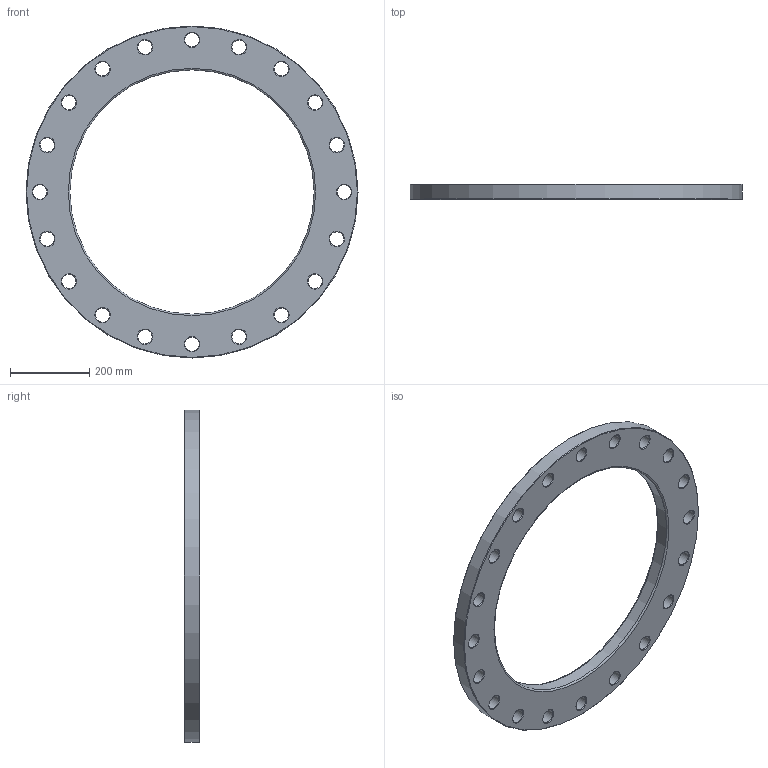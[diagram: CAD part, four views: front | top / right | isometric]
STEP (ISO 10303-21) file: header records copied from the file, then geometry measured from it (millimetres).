
FILE_DESCRIPTION(/* description */ ('Unknown'),/* implementation_level */ '2;1');
FILE_NAME(/* name */ 'FZ560C',/* time_stamp */ '2021-03-15T12:25:24+01:00',/* author */ ('Unknown'),/* organization */ ('Unknown'),/* preprocessor_version */ 'ST-DEVELOPER v16.7',/* originating_system */ 'Solid Edge',/* authorisation */ 'Unknown');
FILE_SCHEMA (('AUTOMOTIVE_DESIGN {1 0 10303 214 3 1 1}'));
Length unit declared in the file: millimetre
Products named in the file (1): FZ560C
Bounding box: 840 x 39 x 840 mm (x, y, z)
Volume: 9095890.9 mm3; surface area: 719413.7 mm2
Topology: 1 solids, 1 shells, 68 faces, 214 edges, 148 vertices
Faces by surface type: cone 42, cylinder 22, plane 2, torus 2
Full cylindrical faces by diameter (mm): 36 x20, 618 x1, 840 x1
Entity records: 1678 total; most frequent: DIRECTION 314, CARTESIAN_POINT 245, ORIENTED_EDGE 176, EDGE_LOOP 176, FACE_BOUND 176, AXIS2_PLACEMENT_3D 157, EDGE_CURVE 88, VERTEX_POINT 88
